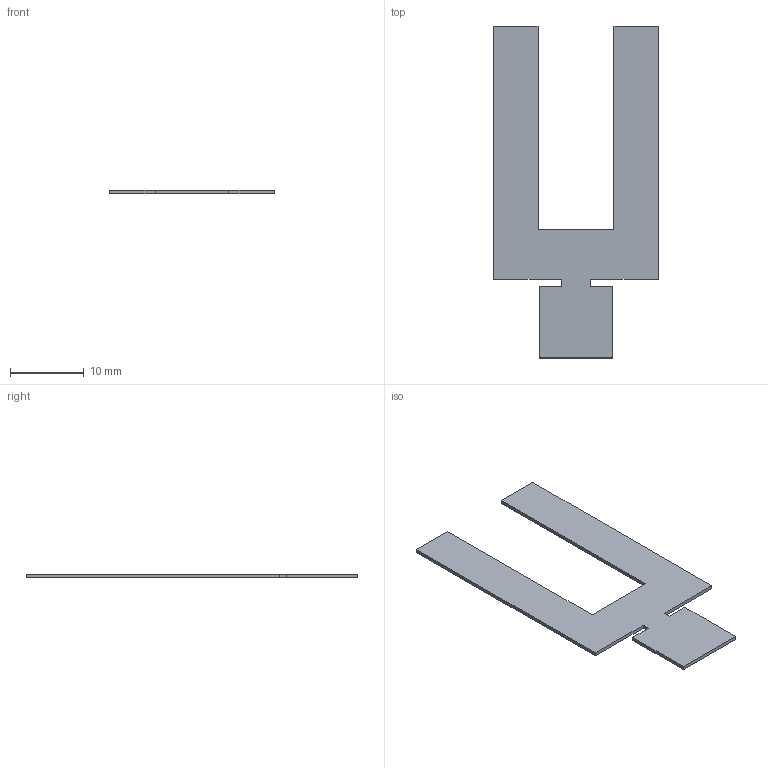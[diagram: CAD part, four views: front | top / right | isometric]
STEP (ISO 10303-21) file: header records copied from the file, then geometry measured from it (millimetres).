
FILE_DESCRIPTION (( 'STEP AP214' ), '1' );
FILE_NAME ('067RCB1BRS012_simplified.STEP', '2024-09-18T09:52:20', ( '' ), ( '' ), 'SwSTEP 2.0', 'SolidWorks 2023', '' );
FILE_SCHEMA (( 'AUTOMOTIVE_DESIGN' ));
Length unit declared in the file: millimetre
Products named in the file (1): 067RCB1BRS012_simplified
Bounding box: 22.3 x 45 x 0.5 mm (x, y, z)
Volume: 290.5 mm3; surface area: 1263.1 mm2
Topology: 1 solids, 1 shells, 18 faces, 48 edges, 32 vertices
Faces by surface type: plane 18
Entity records: 575 total; most frequent: CARTESIAN_POINT 99, ORIENTED_EDGE 96, DIRECTION 86, VECTOR 48, LINE 48, EDGE_CURVE 48, VERTEX_POINT 32, AXIS2_PLACEMENT_3D 19
